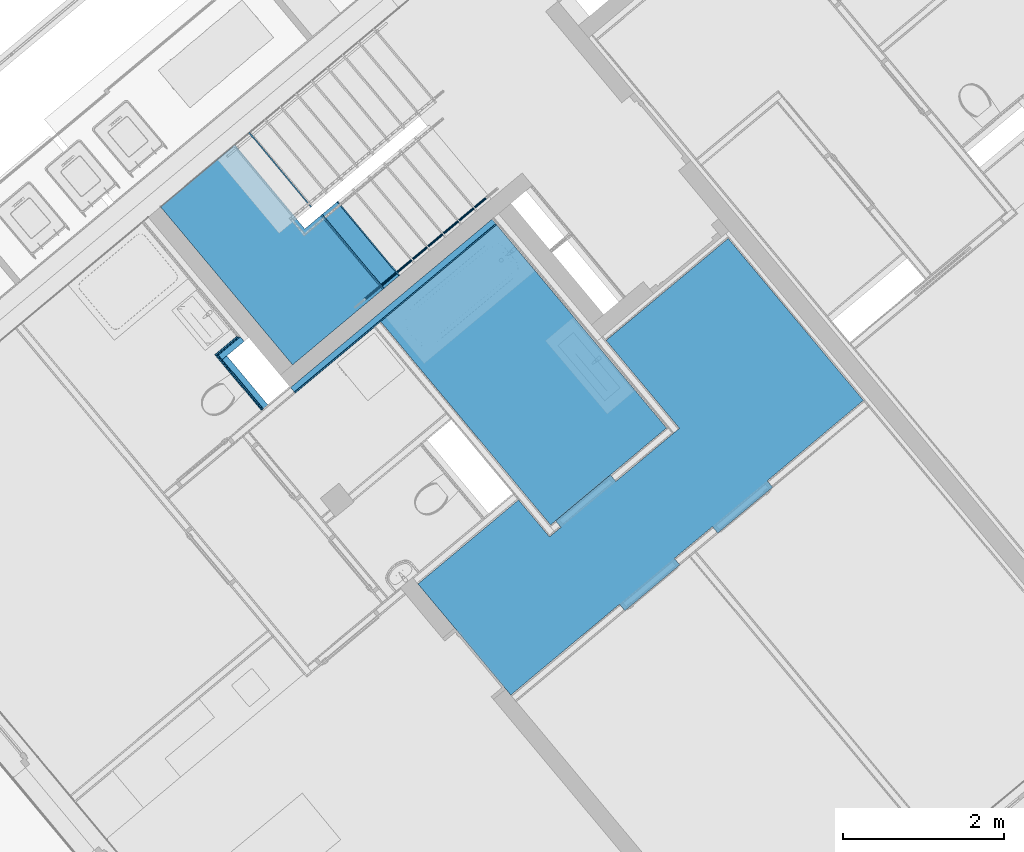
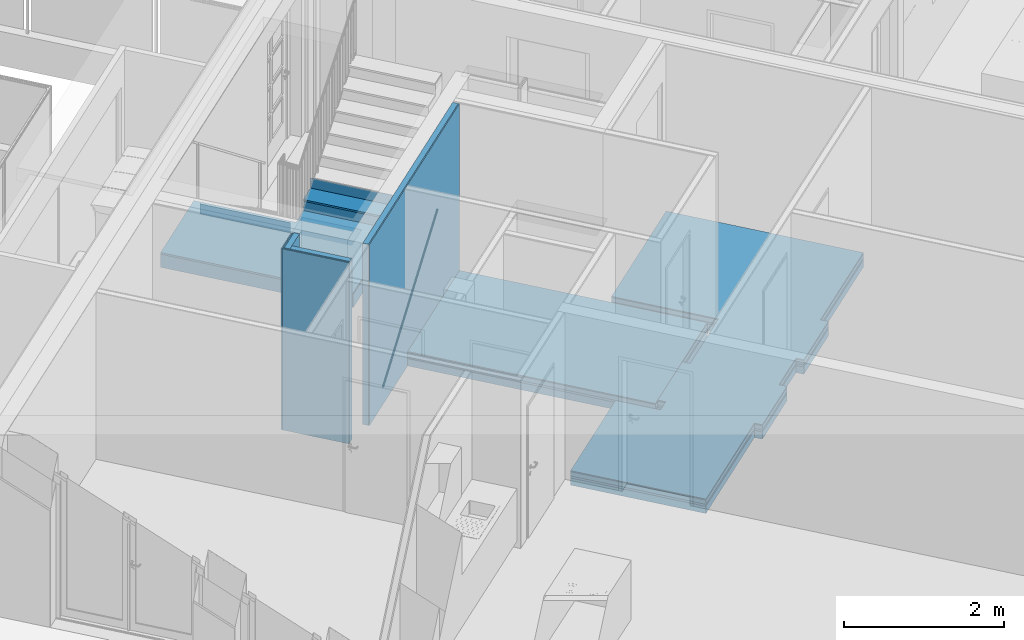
# One storey, part 33 of 75: 23 building element parts, 7 elements without a shape of their own.
"""IFC4 building model written with IfcOpenShell, lengths in metres."""

from ifc_helpers import new_model, entity, si_unit, converted_unit, derived_unit, direction, frame, origin_with_axes, place, context, subcontext, project, spatial, polygons, material, type_object, element, aggregate, save


model = new_model("IFC4")

# Units and contexts
model_context = context("Model", 3, precision=1e-05, world=origin_with_axes(), true_north=direction((0.0, 1.0)))
body_context = subcontext(model_context, "Body", "Model", "MODEL_VIEW")
ifc_project = project(units=[si_unit("LENGTHUNIT", "METRE"), si_unit("AREAUNIT", "SQUARE_METRE"), si_unit("VOLUMEUNIT", "CUBIC_METRE"), converted_unit("PLANEANGLEUNIT", "DEGREE", entity("IfcPlaneAngleMeasure", 0.0174532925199), si_unit("PLANEANGLEUNIT", "RADIAN"), dimensions=[0, 0, 0, 0, 0, 0, 0]), converted_unit("TIMEUNIT", "Year", entity("IfcTimeMeasure", 31556926.0), si_unit("TIMEUNIT", "SECOND"), dimensions=[0, 0, 1, 0, 0, 0, 0]), si_unit("MASSUNIT", "GRAM", prefix="KILO"), si_unit("THERMODYNAMICTEMPERATUREUNIT", "DEGREE_CELSIUS"), si_unit("LUMINOUSINTENSITYUNIT", "LUMEN"), si_unit("ENERGYUNIT", "JOULE", prefix="MEGA"), derived_unit("THERMALCONDUCTANCEUNIT", [(si_unit("POWERUNIT", "WATT"), 1), (si_unit("LENGTHUNIT", "METRE"), -1), (si_unit("THERMODYNAMICTEMPERATUREUNIT", "KELVIN"), -1)]), derived_unit("SPECIFICHEATCAPACITYUNIT", [(si_unit("ENERGYUNIT", "JOULE"), 1), (si_unit("MASSUNIT", "GRAM", prefix="KILO"), -1), (si_unit("THERMODYNAMICTEMPERATUREUNIT", "KELVIN"), -1)]), derived_unit("MASSDENSITYUNIT", [(si_unit("MASSUNIT", "GRAM", prefix="KILO"), 1), (si_unit("VOLUMEUNIT", "CUBIC_METRE"), -1)])], contexts=[model_context])

# Site, building, storey
site_placement = place(None, frame((-0.00153261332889, -0.00661245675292, 0.0), z_axis=(0.0, 0.0, 1.0), x_axis=(1.0, 0.0, 0.0)))
site = spatial("IfcSite", under=ifc_project, at=site_placement, Name="Gelände", CompositionType="ELEMENT")
building_placement = place(site_placement, origin_with_axes())
building = spatial("IfcBuilding", under=site, at=building_placement, Name="Gebäude", CompositionType="ELEMENT")
storey_placement = place(building_placement, frame((0.0, 0.0, -0.22), z_axis=(0.0, 0.0, 1.0), x_axis=(1.0, 0.0, 0.0)))
storey = spatial("IfcBuildingStorey", under=building, at=storey_placement, Name="EG", CompositionType="ELEMENT", Elevation=-0.22)

# Wall, building element parts
wall_type_1 = type_object("IfcWallType", Name="LB 10,5 cm doppelte Vorsatzschale Bad 105", PredefinedType="NOTDEFINED")
wall_1_placement = place(storey_placement, frame((-3.007781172, 20.6786353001, 0.0), z_axis=(0.0, 0.0, 1.0), x_axis=(0.641209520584, -0.767365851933, 0.0)))
wall_1 = element("IfcWall", 1, at=wall_1_placement, inside=storey, type_object=wall_type_1, Name="Wand-004", PredefinedType="NOTDEFINED")
ifc_material_1 = material(Name="Mineralwolle weich")
building_element_part_1_placement = place(wall_1_placement, origin_with_axes())
building_element_part_1 = element("IfcBuildingElementPart", 2, at=building_element_part_1_placement, material=ifc_material_1, Name="Mineralwolle weich", PredefinedType="NOTDEFINED", context=body_context, shape_type="Tessellation", body=[
    polygons([(0.0, 0.0, 2.76), (0.795549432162, 0.0, 2.76), (0.795549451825, 0.0, 0.0), (0.0, 0.0, 0.0), (0.795584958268, -0.075, 2.76), (0.0, -0.075, 2.76), (0.795584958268, -0.075, 0.0), (0.0, -0.075, 0.0)], [[[1, 2, 3, 4]], [[5, 2, 1, 6]], [[2, 5, 7, 3]], [[3, 7, 8, 4]], [[6, 1, 4, 8]], [[5, 6, 8, 7]]], closed=True),
])
ifc_material_2 = material(Name="Gipskarton")
building_element_part_2_placement = place(wall_1_placement, origin_with_axes())
building_element_part_2 = element("IfcBuildingElementPart", 3, at=building_element_part_2_placement, material=ifc_material_2, Name="Gipskarton", PredefinedType="NOTDEFINED", context=body_context, shape_type="Tessellation", body=[
    polygons([(-0.0750000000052, -0.075, 2.76), (0.795584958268, -0.075, 2.76), (0.795584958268, -0.075, 0.0), (-0.0750000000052, -0.075, 0.0), (0.795592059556, -0.09, 2.76), (-0.0750000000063, -0.09, 2.76), (0.795592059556, -0.09, 0.0), (-0.0750000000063, -0.09, 0.0)], [[[1, 2, 3, 4]], [[5, 2, 1, 6]], [[2, 5, 7, 3]], [[3, 7, 8, 4]], [[6, 1, 4, 8]], [[5, 6, 8, 7]]], closed=True),
])
building_element_part_3_placement = place(wall_1_placement, origin_with_axes())
building_element_part_3 = element("IfcBuildingElementPart", 4, at=building_element_part_3_placement, material=ifc_material_2, Name="Gipskarton", PredefinedType="NOTDEFINED", context=body_context, shape_type="Tessellation", body=[
    polygons([(-0.0900000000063, -0.09, 2.76), (0.795592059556, -0.09, 2.76), (0.795592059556, -0.09, 0.0), (-0.0900000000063, -0.09, 0.0), (0.795599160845, -0.105, 2.76), (-0.0900000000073, -0.105, 2.76), (0.795599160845, -0.105, 0.0), (-0.0900000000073, -0.105, 0.0)], [[[1, 2, 3, 4]], [[5, 2, 1, 6]], [[2, 5, 7, 3]], [[3, 7, 8, 4]], [[6, 1, 4, 8]], [[5, 6, 8, 7]]], closed=True),
])
aggregate(wall_1, [building_element_part_1, building_element_part_2, building_element_part_3])

wall_2_placement = place(storey_placement, frame((-2.73492476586, 20.9066336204, 0.0), z_axis=(0.0, 0.0, 1.0), x_axis=(-0.767365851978, -0.64120952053, 0.0)))
wall_2 = element("IfcWall", 5, at=wall_2_placement, inside=storey, type_object=wall_type_1, Name="Wand-004", PredefinedType="NOTDEFINED")
building_element_part_4_placement = place(wall_2_placement, origin_with_axes())
building_element_part_4 = element("IfcBuildingElementPart", 6, at=building_element_part_4_placement, material=ifc_material_1, Name="Mineralwolle weich", PredefinedType="NOTDEFINED", context=body_context, shape_type="Tessellation", body=[
    polygons([(0.0750000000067, -0.075, 2.76), (0.075, 0.0, 2.76), (0.075, 0.0, 0.0), (0.0750000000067, -0.075, 0.0), (0.355575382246, 0.0, 2.76), (0.430575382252, -0.075, 2.76), (0.430575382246, 0.0, 2.76), (0.430575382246, 0.0, 0.0), (0.430575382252, -0.075, 0.0)], [[[1, 2, 3, 4]], [[5, 2, 1, 6, 7]], [[5, 7, 8, 3, 2]], [[8, 9, 4, 3]], [[6, 1, 4, 9]], [[7, 6, 9, 8]]], closed=True),
])
building_element_part_5_placement = place(wall_2_placement, origin_with_axes())
building_element_part_5 = element("IfcBuildingElementPart", 7, at=building_element_part_5_placement, material=ifc_material_2, Name="Gipskarton", PredefinedType="NOTDEFINED", context=body_context, shape_type="Tessellation", body=[
    polygons([(0.090000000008, -0.09, 2.76), (0.0900000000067, -0.075, 2.76), (0.0900000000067, -0.075, 0.0), (0.090000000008, -0.09, 0.0), (0.445575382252, -0.075, 2.76), (0.445575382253, -0.09, 2.76), (0.445575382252, -0.075, 0.0), (0.445575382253, -0.09, 0.0)], [[[1, 2, 3, 4]], [[5, 2, 1, 6]], [[2, 5, 7, 3]], [[7, 8, 4, 3]], [[6, 1, 4, 8]], [[5, 6, 8, 7]]], closed=True),
])
building_element_part_6_placement = place(wall_2_placement, origin_with_axes())
building_element_part_6 = element("IfcBuildingElementPart", 8, at=building_element_part_6_placement, material=ifc_material_2, Name="Gipskarton", PredefinedType="NOTDEFINED", context=body_context, shape_type="Tessellation", body=[
    polygons([(0.105000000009, -0.105, 2.76), (0.105000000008, -0.09, 2.76), (0.105000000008, -0.09, 0.0), (0.105000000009, -0.105, 0.0), (0.460575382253, -0.09, 2.76), (0.460575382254, -0.105, 2.76), (0.460575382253, -0.09, 0.0), (0.460575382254, -0.105, 0.0)], [[[1, 2, 3, 4]], [[5, 2, 1, 6]], [[2, 5, 7, 3]], [[7, 8, 4, 3]], [[6, 1, 4, 8]], [[5, 6, 8, 7]]], closed=True),
])
aggregate(wall_2, [building_element_part_4, building_element_part_5, building_element_part_6])

wall_type_2 = type_object("IfcWallType", Name="LB 9,0 cm einfache Vorsatzschale  90", PredefinedType="NOTDEFINED")
wall_3_placement = place(storey_placement, frame((0.371124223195, 22.44598682, 0.0), z_axis=(0.0, 0.0, 1.0), x_axis=(-0.767365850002, -0.641209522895, 0.0)))
wall_3 = element("IfcWall", 9, at=wall_3_placement, inside=storey, type_object=wall_type_2, Name="Wand-006", PredefinedType="NOTDEFINED")
building_element_part_7_placement = place(wall_3_placement, origin_with_axes())
building_element_part_7 = element("IfcBuildingElementPart", 10, at=building_element_part_7_placement, material=ifc_material_2, Name="Gipskarton", PredefinedType="NOTDEFINED", context=body_context, shape_type="Tessellation", body=[
    polygons([(0.105000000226, 0.075, 2.76), (0.105000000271, 0.09, 2.76), (0.105000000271, 0.09, 0.0), (0.105000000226, 0.075, 0.0), (3.37051675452, 0.09, 2.76), (3.37051675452, 0.075, 2.76), (3.37051675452, 0.09, 0.0), (3.37051675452, 0.075, 0.0)], [[[1, 2, 3, 4]], [[5, 2, 1, 6]], [[2, 5, 7, 3]], [[8, 4, 3, 7]], [[6, 1, 4, 8]], [[5, 6, 8, 7]]], closed=True),
])
building_element_part_8_placement = place(wall_3_placement, origin_with_axes())
building_element_part_8 = element("IfcBuildingElementPart", 11, at=building_element_part_8_placement, material=ifc_material_1, Name="Mineralwolle weich", PredefinedType="NOTDEFINED", context=body_context, shape_type="Tessellation", body=[
    polygons([(0.105, 0.0, 2.76), (0.105000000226, 0.075, 2.76), (0.105000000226, 0.075, 0.0), (0.105, -2.25703900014e-10, 0.0), (3.37051675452, 0.075, 2.76), (3.37051675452, 0.0, 2.76), (3.37051675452, 0.075, 0.0), (3.37051675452, 0.0, 0.0)], [[[1, 2, 3, 4]], [[5, 2, 1, 6]], [[2, 5, 7, 3]], [[8, 4, 3, 7]], [[6, 1, 4, 8]], [[5, 6, 8, 7]]], closed=True),
])
aggregate(wall_3, [building_element_part_7, building_element_part_8])

# Space
space_1_placement = place(storey_placement, frame((-1.16508896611, 24.7530172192, 0.22), z_axis=(0.0, 0.0, 1.0), x_axis=(0.641170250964, -0.76739866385, 0.0)))
space_1 = spatial("IfcSpace", under=storey, at=space_1_placement, CompositionType="ELEMENT", PredefinedType="NOTDEFINED")

# Railing, building element part
railing_type = type_object("IfcRailingType", Name="Geländerart", PredefinedType="NOTDEFINED")
railing_placement = place(space_1_placement, frame((2.55537213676, -0.0246817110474, -1.53333333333), z_axis=(0.0, 0.0, 1.0), x_axis=(0.641170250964, 0.76739866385, 0.0)))
railing = element("IfcRailing", 12, at=railing_placement, inside=space_1, type_object=railing_type, Name="Geländer - 001", PredefinedType="NOTDEFINED")
ifc_material_3 = material(Name="BEKLEIDUNG")
building_element_part_9_placement = place(railing_placement, origin_with_axes())
building_element_part_9 = element("IfcBuildingElementPart", 13, at=building_element_part_9_placement, material=ifc_material_3, Name="BEKLEIDUNG", PredefinedType="NOTDEFINED", context=body_context, shape_type="Tessellation", body=[
    polygons([(-0.212275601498, -0.131766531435, 2.30111559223), (-0.213581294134, -0.13256059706, 2.30323718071), (-1.7362771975, -1.40492254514, 0.889903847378), (-1.73497150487, -1.40412847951, 0.8877822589), (-0.211262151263, -0.130622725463, 2.29899400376), (-0.210571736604, -0.129163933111, 2.29693687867), (-0.210225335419, -0.127434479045, 2.29500672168), (-0.210233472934, -0.125486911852, 2.29326217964), (-0.210595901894, -0.123380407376, 2.29175625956), (-0.211301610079, -0.12117897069, 2.29053471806), (-0.212329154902, -0.118949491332, 2.28963467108), (-0.213647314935, -0.116759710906, 2.28908346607), (-0.215216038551, -0.114676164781, 2.28889785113), (-0.216987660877, -0.112762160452, 2.28908346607), (-0.218908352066, -0.111075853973, 2.28963467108), (-0.220919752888, -0.109668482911, 2.29053471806), (-0.222960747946, -0.108582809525, 2.29175625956), (-0.224969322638, -0.107851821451, 2.29326217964), (-0.226884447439, -0.107497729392, 2.29500672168), (-0.228647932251, -0.107531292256, 2.29693687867), (-0.230206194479, -0.107951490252, 2.29899400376), (-0.231511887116, -0.108745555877, 2.30111559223), (-0.23252533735, -0.109889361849, 2.30323718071), (-0.23321575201, -0.111348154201, 2.3052943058), (-0.233562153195, -0.113077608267, 2.30722446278), (-0.23355401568, -0.11502517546, 2.30896900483), (-0.23319158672, -0.117131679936, 2.31047492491), (-0.232485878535, -0.119333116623, 2.3116964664), (-0.231458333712, -0.12156259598, 2.31259651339), (-0.230140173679, -0.123752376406, 2.31314771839), (-0.228571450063, -0.125835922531, 2.31333333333), (-0.226799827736, -0.12774992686, 2.31314771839), (-0.224879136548, -0.12943623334, 2.31259651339), (-0.222867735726, -0.130843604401, 2.3116964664), (-0.220826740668, -0.131929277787, 2.31047492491), (-0.218818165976, -0.132660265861, 2.30896900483), (-0.216903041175, -0.13301435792, 2.30722446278), (-0.215139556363, -0.132980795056, 2.3052943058), (-1.73783545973, -1.40534274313, 0.891960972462), (-1.73959894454, -1.405376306, 0.89389112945), (-1.74151406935, -1.40502221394, 0.895635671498), (-1.74352264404, -1.40429122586, 0.897141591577), (-1.7455636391, -1.40320555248, 0.89836313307), (-1.74757503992, -1.40179818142, 0.899263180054), (-1.74949573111, -1.40011187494, 0.89981438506), (-1.75126735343, -1.39819787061, 0.9), (-1.75283607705, -1.39611432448, 0.89981438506), (-1.75415423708, -1.39392454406, 0.899263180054), (-1.7551817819, -1.3916950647, 0.89836313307), (-1.75588749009, -1.38949362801, 0.897141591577), (-1.75624991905, -1.38738712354, 0.895635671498), (-1.75625805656, -1.38543955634, 0.89389112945), (-1.75591165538, -1.38371010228, 0.891960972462), (-1.75522124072, -1.38225130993, 0.889903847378), (-1.75420779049, -1.38110750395, 0.8877822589), (-1.75290209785, -1.38031343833, 0.885660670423), (-1.75134383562, -1.37989324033, 0.883603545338), (-1.74958035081, -1.37985967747, 0.881673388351), (-1.74766522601, -1.38021376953, 0.879928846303), (-1.74565665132, -1.3809447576, 0.878422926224), (-1.74361565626, -1.38203043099, 0.877201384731), (-1.74160425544, -1.38343780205, 0.876301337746), (-1.73968356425, -1.38512410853, 0.875750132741), (-1.73791194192, -1.38703811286, 0.875564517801), (-1.7363432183, -1.38912165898, 0.875750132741), (-1.73502505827, -1.39131143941, 0.876301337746), (-1.73399751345, -1.39354091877, 0.877201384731), (-1.73329180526, -1.39574235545, 0.878422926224), (-1.7329293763, -1.39784885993, 0.879928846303), (-1.73292123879, -1.39979642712, 0.881673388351), (-1.73326763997, -1.40152588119, 0.883603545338), (-1.73395805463, -1.40298467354, 0.885660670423)], [[[1, 2, 3, 4]], [[1, 5, 6, 7, 8, 9, 10, 11, 12, 13, 14, 15, 16, 17, 18, 19, 20, 21, 22, 23, 24, 25, 26, 27, 28, 29, 30, 31, 32, 33, 34, 35, 36, 37, 38, 2]], [[2, 38, 39, 3]], [[4, 3, 39, 40, 41, 42, 43, 44, 45, 46, 47, 48, 49, 50, 51, 52, 53, 54, 55, 56, 57, 58, 59, 60, 61, 62, 63, 64, 65, 66, 67, 68, 69, 70, 71, 72]], [[5, 1, 4, 72]], [[6, 5, 72, 71]], [[7, 6, 71, 70]], [[8, 7, 70, 69]], [[9, 8, 69, 68]], [[10, 9, 68, 67]], [[11, 10, 67, 66]], [[12, 11, 66, 65]], [[13, 12, 65, 64]], [[14, 13, 64, 63]], [[15, 14, 63, 62]], [[16, 15, 62, 61]], [[17, 16, 61, 60]], [[18, 17, 60, 59]], [[19, 18, 59, 58]], [[20, 19, 58, 57]], [[21, 20, 57, 56]], [[22, 21, 56, 55]], [[23, 22, 55, 54]], [[24, 23, 54, 53]], [[25, 24, 53, 52]], [[26, 25, 52, 51]], [[27, 26, 51, 50]], [[28, 27, 50, 49]], [[29, 28, 49, 48]], [[30, 29, 48, 47]], [[31, 30, 47, 46]], [[32, 31, 46, 45]], [[33, 32, 45, 44]], [[34, 33, 44, 43]], [[35, 34, 43, 42]], [[36, 35, 42, 41]], [[37, 36, 41, 40]], [[38, 37, 40, 39]]], closed=True),
])
aggregate(railing, [building_element_part_9])

# Covering, building element parts
covering_type = type_object("IfcCoveringType", Name="DE 01 Decke Wohnung/Wohnung Fließen 220", PredefinedType="NOTDEFINED")
covering_1_placement = place(storey_placement, frame((0.620119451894, 18.8878317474, 0.22), z_axis=(0.0, 0.0, 1.0), x_axis=(1.0, 0.0, 0.0)))
covering_1 = element("IfcCovering", 14, at=covering_1_placement, inside=storey, type_object=covering_type, Name="Decke-002", PredefinedType="NOTDEFINED")
ifc_material_4 = material(Name="Fliesen")
building_element_part_10_placement = place(covering_1_placement, origin_with_axes())
building_element_part_10 = element("IfcBuildingElementPart", 15, at=building_element_part_10_placement, material=ifc_material_4, Name="Fliesen", PredefinedType="NOTDEFINED", context=body_context, shape_type="Tessellation", body=[
    polygons([(1.08734929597, 1.98227361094, 0.0), (1.99999157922, 0.889899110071, 0.0), (1.20943260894, 0.229309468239, 0.0), (1.14210555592, 0.309882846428, 0.0), (0.459149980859, -0.260793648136, 0.0), (0.526476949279, -0.341367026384, 0.0), (0.384427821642, -0.460063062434, 0.0), (0.0, 0.0, 0.0), (-1.25133214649, -1.04561091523, 0.0), (-0.0965096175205, -2.42764183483, 0.0), (1.25499141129, -1.29832999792, 0.0), (1.32231837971, -1.37890346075, 0.0), (2.00527395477, -0.808226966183, 0.0), (1.93794698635, -0.727653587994, 0.0), (2.40987198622, -0.333313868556, 0.0), (2.47719895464, -0.413887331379, 0.0), (3.16015461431, 0.156789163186, 0.0), (3.09282756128, 0.237362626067, 0.0), (4.28845343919, 1.23642541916, 0.0), (2.6068880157, 3.25077620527, 0.0), (1.99999157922, 0.889899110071, -0.015), (1.08734929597, 1.98227361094, -0.015), (1.20943260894, 0.229309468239, -0.015), (1.14210555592, 0.309882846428, -0.015), (0.459149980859, -0.260793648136, -0.015), (0.526476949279, -0.341367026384, -0.015), (0.384427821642, -0.460063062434, -0.015), (0.0, 0.0, -0.015), (-1.25133214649, -1.04561091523, -0.015), (-0.0965096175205, -2.42764183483, -0.015), (1.25499141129, -1.29832999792, -0.015), (1.32231837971, -1.37890346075, -0.015), (2.00527395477, -0.808226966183, -0.015), (1.93794698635, -0.727653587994, -0.015), (2.40987198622, -0.333313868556, -0.015), (2.47719895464, -0.413887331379, -0.015), (3.16015461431, 0.156789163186, -0.015), (3.09282756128, 0.237362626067, -0.015), (4.28845343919, 1.23642541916, -0.015), (2.6068880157, 3.25077620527, -0.015)], [[[1, 2, 3, 4, 5, 6, 7, 8, 9, 10, 11, 12, 13, 14, 15, 16, 17, 18, 19, 20]], [[21, 2, 1, 22]], [[2, 21, 23, 3]], [[23, 24, 4, 3]], [[24, 25, 5, 4]], [[25, 26, 6, 5]], [[26, 27, 7, 6]], [[27, 28, 8, 7]], [[28, 29, 9, 8]], [[29, 30, 10, 9]], [[30, 31, 11, 10]], [[31, 32, 12, 11]], [[32, 33, 13, 12]], [[33, 34, 14, 13]], [[34, 35, 15, 14]], [[35, 36, 16, 15]], [[36, 37, 17, 16]], [[37, 38, 18, 17]], [[38, 39, 19, 18]], [[39, 40, 20, 19]], [[22, 1, 20, 40]], [[21, 22, 40, 39, 38, 37, 36, 35, 34, 33, 32, 31, 30, 29, 28, 27, 26, 25, 24, 23]]], closed=True),
])
ifc_material_5 = material(Name="Estrich")
building_element_part_11_placement = place(covering_1_placement, origin_with_axes())
building_element_part_11 = element("IfcBuildingElementPart", 16, at=building_element_part_11_placement, material=ifc_material_5, Name="Estrich", PredefinedType="NOTDEFINED", context=body_context, shape_type="Tessellation", body=[
    polygons([(1.08734929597, 1.98227361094, -0.015), (1.99999157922, 0.889899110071, -0.015), (1.20943260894, 0.229309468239, -0.015), (1.14210555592, 0.309882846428, -0.015), (0.459149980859, -0.260793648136, -0.015), (0.526476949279, -0.341367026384, -0.015), (0.384427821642, -0.460063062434, -0.015), (0.0, 0.0, -0.015), (-1.25133214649, -1.04561091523, -0.015), (-0.0965096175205, -2.42764183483, -0.015), (1.25499141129, -1.29832999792, -0.015), (1.32231837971, -1.37890346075, -0.015), (2.00527395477, -0.808226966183, -0.015), (1.93794698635, -0.727653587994, -0.015), (2.40987198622, -0.333313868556, -0.015), (2.47719895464, -0.413887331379, -0.015), (3.16015461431, 0.156789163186, -0.015), (3.09282756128, 0.237362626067, -0.015), (4.28845343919, 1.23642541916, -0.015), (2.6068880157, 3.25077620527, -0.015), (1.99999157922, 0.889899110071, -0.08), (1.08734929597, 1.98227361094, -0.08), (1.20943260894, 0.229309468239, -0.08), (1.14210555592, 0.309882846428, -0.08), (0.459149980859, -0.260793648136, -0.08), (0.526476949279, -0.341367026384, -0.08), (0.384427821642, -0.460063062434, -0.08), (0.0, 0.0, -0.08), (-1.25133214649, -1.04561091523, -0.08), (-0.0965096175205, -2.42764183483, -0.08), (1.25499141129, -1.29832999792, -0.08), (1.32231837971, -1.37890346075, -0.08), (2.00527395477, -0.808226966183, -0.08), (1.93794698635, -0.727653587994, -0.08), (2.40987198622, -0.333313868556, -0.08), (2.47719895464, -0.413887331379, -0.08), (3.16015461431, 0.156789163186, -0.08), (3.09282756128, 0.237362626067, -0.08), (4.28845343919, 1.23642541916, -0.08), (2.6068880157, 3.25077620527, -0.08)], [[[1, 2, 3, 4, 5, 6, 7, 8, 9, 10, 11, 12, 13, 14, 15, 16, 17, 18, 19, 20]], [[21, 2, 1, 22]], [[2, 21, 23, 3]], [[23, 24, 4, 3]], [[24, 25, 5, 4]], [[25, 26, 6, 5]], [[26, 27, 7, 6]], [[27, 28, 8, 7]], [[28, 29, 9, 8]], [[29, 30, 10, 9]], [[30, 31, 11, 10]], [[31, 32, 12, 11]], [[32, 33, 13, 12]], [[33, 34, 14, 13]], [[34, 35, 15, 14]], [[35, 36, 16, 15]], [[36, 37, 17, 16]], [[37, 38, 18, 17]], [[38, 39, 19, 18]], [[39, 40, 20, 19]], [[22, 1, 20, 40]], [[21, 22, 40, 39, 38, 37, 36, 35, 34, 33, 32, 31, 30, 29, 28, 27, 26, 25, 24, 23]]], closed=True),
])
ifc_material_6 = material(Name="Trittschalldämmung")
building_element_part_12_placement = place(covering_1_placement, origin_with_axes())
building_element_part_12 = element("IfcBuildingElementPart", 17, at=building_element_part_12_placement, material=ifc_material_6, Name="Trittschalldämmung", PredefinedType="NOTDEFINED", context=body_context, shape_type="Tessellation", body=[
    polygons([(1.08734929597, 1.98227361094, -0.08), (1.99999157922, 0.889899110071, -0.08), (1.20943260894, 0.229309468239, -0.08), (1.14210555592, 0.309882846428, -0.08), (0.459149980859, -0.260793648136, -0.08), (0.526476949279, -0.341367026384, -0.08), (0.384427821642, -0.460063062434, -0.08), (0.0, 0.0, -0.08), (-1.25133214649, -1.04561091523, -0.08), (-0.0965096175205, -2.42764183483, -0.08), (1.25499141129, -1.29832999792, -0.08), (1.32231837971, -1.37890346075, -0.08), (2.00527395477, -0.808226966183, -0.08), (1.93794698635, -0.727653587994, -0.08), (2.40987198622, -0.333313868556, -0.08), (2.47719895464, -0.413887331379, -0.08), (3.16015461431, 0.156789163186, -0.08), (3.09282756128, 0.237362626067, -0.08), (4.28845343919, 1.23642541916, -0.08), (2.6068880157, 3.25077620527, -0.08), (1.99999157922, 0.889899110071, -0.11), (1.08734929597, 1.98227361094, -0.11), (1.20943260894, 0.229309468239, -0.11), (1.14210555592, 0.309882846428, -0.11), (0.459149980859, -0.260793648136, -0.11), (0.526476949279, -0.341367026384, -0.11), (0.384427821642, -0.460063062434, -0.11), (0.0, 0.0, -0.11), (-1.25133214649, -1.04561091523, -0.11), (-0.0965096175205, -2.42764183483, -0.11), (1.25499141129, -1.29832999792, -0.11), (1.32231837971, -1.37890346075, -0.11), (2.00527395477, -0.808226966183, -0.11), (1.93794698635, -0.727653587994, -0.11), (2.40987198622, -0.333313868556, -0.11), (2.47719895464, -0.413887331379, -0.11), (3.16015461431, 0.156789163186, -0.11), (3.09282756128, 0.237362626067, -0.11), (4.28845343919, 1.23642541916, -0.11), (2.6068880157, 3.25077620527, -0.11)], [[[1, 2, 3, 4, 5, 6, 7, 8, 9, 10, 11, 12, 13, 14, 15, 16, 17, 18, 19, 20]], [[21, 2, 1, 22]], [[2, 21, 23, 3]], [[23, 24, 4, 3]], [[24, 25, 5, 4]], [[25, 26, 6, 5]], [[26, 27, 7, 6]], [[27, 28, 8, 7]], [[28, 29, 9, 8]], [[29, 30, 10, 9]], [[30, 31, 11, 10]], [[31, 32, 12, 11]], [[32, 33, 13, 12]], [[33, 34, 14, 13]], [[34, 35, 15, 14]], [[35, 36, 16, 15]], [[36, 37, 17, 16]], [[37, 38, 18, 17]], [[38, 39, 19, 18]], [[39, 40, 20, 19]], [[22, 1, 20, 40]], [[21, 22, 40, 39, 38, 37, 36, 35, 34, 33, 32, 31, 30, 29, 28, 27, 26, 25, 24, 23]]], closed=True),
])
ifc_material_7 = material(Name="Schüttung")
building_element_part_13_placement = place(covering_1_placement, origin_with_axes())
building_element_part_13 = element("IfcBuildingElementPart", 18, at=building_element_part_13_placement, material=ifc_material_7, Name="Schüttung", PredefinedType="NOTDEFINED", context=body_context, shape_type="Tessellation", body=[
    polygons([(1.08734929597, 1.98227361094, -0.11), (1.99999157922, 0.889899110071, -0.11), (1.20943260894, 0.229309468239, -0.11), (1.14210555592, 0.309882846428, -0.11), (0.459149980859, -0.260793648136, -0.11), (0.526476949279, -0.341367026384, -0.11), (0.384427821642, -0.460063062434, -0.11), (0.0, 0.0, -0.11), (-1.25133214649, -1.04561091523, -0.11), (-0.0965096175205, -2.42764183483, -0.11), (1.25499141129, -1.29832999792, -0.11), (1.32231837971, -1.37890346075, -0.11), (2.00527395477, -0.808226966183, -0.11), (1.93794698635, -0.727653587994, -0.11), (2.40987198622, -0.333313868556, -0.11), (2.47719895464, -0.413887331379, -0.11), (3.16015461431, 0.156789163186, -0.11), (3.09282756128, 0.237362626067, -0.11), (4.28845343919, 1.23642541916, -0.11), (2.6068880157, 3.25077620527, -0.11), (1.99999157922, 0.889899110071, -0.22), (1.08734929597, 1.98227361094, -0.22), (1.20943260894, 0.229309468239, -0.22), (1.14210555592, 0.309882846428, -0.22), (0.459149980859, -0.260793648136, -0.22), (0.526476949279, -0.341367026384, -0.22), (0.384427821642, -0.460063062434, -0.22), (0.0, 0.0, -0.22), (-1.25133214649, -1.04561091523, -0.22), (-0.0965096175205, -2.42764183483, -0.22), (1.25499141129, -1.29832999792, -0.22), (1.32231837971, -1.37890346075, -0.22), (2.00527395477, -0.808226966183, -0.22), (1.93794698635, -0.727653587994, -0.22), (2.40987198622, -0.333313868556, -0.22), (2.47719895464, -0.413887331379, -0.22), (3.16015461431, 0.156789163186, -0.22), (3.09282756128, 0.237362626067, -0.22), (4.28845343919, 1.23642541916, -0.22), (2.6068880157, 3.25077620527, -0.22)], [[[1, 2, 3, 4, 5, 6, 7, 8, 9, 10, 11, 12, 13, 14, 15, 16, 17, 18, 19, 20]], [[21, 2, 1, 22]], [[2, 21, 23, 3]], [[3, 23, 24, 4]], [[4, 24, 25, 5]], [[5, 25, 26, 6]], [[6, 26, 27, 7]], [[7, 27, 28, 8]], [[8, 28, 29, 9]], [[9, 29, 30, 10]], [[10, 30, 31, 11]], [[11, 31, 32, 12]], [[12, 32, 33, 13]], [[13, 33, 34, 14]], [[14, 34, 35, 15]], [[15, 35, 36, 16]], [[16, 36, 37, 17]], [[17, 37, 38, 18]], [[18, 38, 39, 19]], [[19, 39, 40, 20]], [[22, 1, 20, 40]], [[21, 22, 40, 39, 38, 37, 36, 35, 34, 33, 32, 31, 30, 29, 28, 27, 26, 25, 24, 23]]], closed=True),
])
aggregate(covering_1, [building_element_part_10, building_element_part_11, building_element_part_12, building_element_part_13])

covering_2_placement = place(storey_placement, frame((2.46070637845, 19.7813643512, 0.22), z_axis=(0.0, 0.0, 1.0), x_axis=(1.0, 0.0, 0.0)))
covering_2 = element("IfcCovering", 19, at=covering_2_placement, inside=storey, type_object=covering_type, Name="Decke-003", PredefinedType="NOTDEFINED")
building_element_part_14_placement = place(covering_2_placement, origin_with_axes())
building_element_part_14 = element("IfcBuildingElementPart", 20, at=building_element_part_14_placement, material=ifc_material_4, Name="Fliesen", PredefinedType="NOTDEFINED", context=body_context, shape_type="Tessellation", body=[
    polygons([(-2.11244671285, 2.52823254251, -0.015), (-2.11244671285, 2.52823254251, 0.0), (0.0, 0.0, 0.0), (0.0, 0.0, -0.015), (-3.55544192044, 1.32246835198, -0.015), (-3.55544192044, 1.32246835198, 0.0), (-1.44291267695, -1.20569522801, 0.0), (-1.44291267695, -1.20569522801, -0.015)], [[[1, 2, 3, 4]], [[5, 6, 2, 1]], [[3, 2, 6, 7]], [[4, 3, 7, 8]], [[4, 8, 5, 1]], [[8, 7, 6, 5]]], closed=True),
])
building_element_part_15_placement = place(covering_2_placement, origin_with_axes())
building_element_part_15 = element("IfcBuildingElementPart", 21, at=building_element_part_15_placement, material=ifc_material_5, Name="Estrich", PredefinedType="NOTDEFINED", context=body_context, shape_type="Tessellation", body=[
    polygons([(-2.11244671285, 2.52823254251, -0.08), (-2.11244671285, 2.52823254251, -0.015), (0.0, 0.0, -0.015), (0.0, 0.0, -0.08), (-3.55544192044, 1.32246835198, -0.08), (-3.55544192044, 1.32246835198, -0.015), (-1.44291267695, -1.20569522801, -0.015), (-1.44291267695, -1.20569522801, -0.08)], [[[1, 2, 3, 4]], [[5, 6, 2, 1]], [[3, 2, 6, 7]], [[4, 3, 7, 8]], [[4, 8, 5, 1]], [[8, 7, 6, 5]]], closed=True),
])
building_element_part_16_placement = place(covering_2_placement, origin_with_axes())
building_element_part_16 = element("IfcBuildingElementPart", 22, at=building_element_part_16_placement, material=ifc_material_6, Name="Trittschalldämmung", PredefinedType="NOTDEFINED", context=body_context, shape_type="Tessellation", body=[
    polygons([(-2.11244671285, 2.52823254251, -0.11), (-2.11244671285, 2.52823254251, -0.08), (0.0, 0.0, -0.08), (0.0, 0.0, -0.11), (-3.55544192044, 1.32246835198, -0.11), (-3.55544192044, 1.32246835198, -0.08), (-1.44291267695, -1.20569522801, -0.08), (-1.44291267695, -1.20569522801, -0.11)], [[[1, 2, 3, 4]], [[5, 6, 2, 1]], [[3, 2, 6, 7]], [[4, 3, 7, 8]], [[4, 8, 5, 1]], [[8, 7, 6, 5]]], closed=True),
])
building_element_part_17_placement = place(covering_2_placement, origin_with_axes())
building_element_part_17 = element("IfcBuildingElementPart", 23, at=building_element_part_17_placement, material=ifc_material_7, Name="Schüttung", PredefinedType="NOTDEFINED", context=body_context, shape_type="Tessellation", body=[
    polygons([(0.0, 0.0, -0.22), (-2.11244671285, 2.52823254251, -0.22), (-2.11244671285, 2.52823254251, -0.11), (0.0, 0.0, -0.11), (-1.44291267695, -1.20569522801, -0.22), (-3.55544192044, 1.32246835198, -0.22), (-3.55544192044, 1.32246835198, -0.11), (-1.44291267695, -1.20569522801, -0.11)], [[[1, 2, 3, 4]], [[1, 5, 6, 2]], [[2, 6, 7, 3]], [[4, 3, 7, 8]], [[5, 1, 4, 8]], [[6, 5, 8, 7]]], closed=True),
])
aggregate(covering_2, [building_element_part_14, building_element_part_15, building_element_part_16, building_element_part_17])

# Space
space_2_placement = place(storey_placement, frame((0.257887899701, 22.6119986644, 0.22), z_axis=(0.0, 0.0, 1.0), x_axis=(-0.641204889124, 0.767369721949, 0.0)))
space_2 = spatial("IfcSpace", under=storey, at=space_2_placement, CompositionType="ELEMENT", PredefinedType="NOTDEFINED")

# Stair, building element parts
stair_type = type_object("IfcStairType", Name="Treppentyp", PredefinedType="NOTDEFINED")
stair_placement = place(space_2_placement, frame((2.55982666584, -0.536119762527, -0.17), z_axis=(0.0, 0.0, 1.0), x_axis=(-0.641204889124, -0.767369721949, 0.0)))
stair = element("IfcStair", 24, at=stair_placement, inside=space_2, type_object=stair_type, Name="Treppe - 001", PredefinedType="NOTDEFINED")
ifc_material_8 = material(Name="Stahlbeton Decke")
building_element_part_18_placement = place(stair_placement, origin_with_axes())
building_element_part_18 = element("IfcBuildingElementPart", 25, at=building_element_part_18_placement, material=ifc_material_8, Name="Stahlbeton Decke", PredefinedType="NOTDEFINED", context=body_context, shape_type="Tessellation", body=[
    polygons([(-0.0995859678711, -3.41907180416, 1.54558823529), (-0.0995859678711, -3.41907180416, 1.74558823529), (-1.21798601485, -4.3536048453, 1.74558823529), (-1.21798601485, -4.3536048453, 1.54558823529), (-0.869037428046, -2.49823278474, 1.74558823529), (-0.869037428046, -2.49823278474, 1.54558823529), (-1.06659845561, -2.66331440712, 1.74558823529), (-1.16916165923, -2.5405721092, 1.74558823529), (-1.18404787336, -2.55300972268, 1.74558823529), (-1.95345217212, -1.63213131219, 1.74558823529), (-2.85949147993, -2.38913738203, 1.74558823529), (-2.85949147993, -2.38913738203, 1.54558823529), (-1.93419043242, -1.61603796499, 1.54558823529), (-1.16478618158, -2.53691636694, 1.54558823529), (-1.16916165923, -2.5405721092, 1.54558823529), (-1.06659845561, -2.66331440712, 1.54558823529), (-1.16916165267, -2.54057211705, 1.56852941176), (-1.18404787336, -2.55300972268, 1.56852941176), (-1.95345217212, -1.63213131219, 1.56852941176), (-1.93419043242, -1.61603796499, 1.56852941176), (-1.16478618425, -2.53691636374, 1.56852941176)], [[[1, 2, 3, 4]], [[5, 2, 1, 6]], [[2, 5, 7, 8, 9, 10, 11, 3]], [[3, 11, 12, 4]], [[6, 1, 4, 12, 13, 14, 15, 16]], [[5, 6, 16, 7]], [[8, 7, 16, 15, 17]], [[8, 17, 18, 9]], [[18, 19, 10, 9]], [[13, 12, 11, 10, 19, 20]], [[14, 13, 20, 21]], [[21, 17, 15, 14]], [[20, 19, 18, 17, 21]]], closed=True),
])
building_element_part_19_placement = place(stair_placement, origin_with_axes())
building_element_part_19 = element("IfcBuildingElementPart", 26, at=building_element_part_19_placement, material=ifc_material_3, Name="BEKLEIDUNG", PredefinedType="NOTDEFINED", context=body_context, shape_type="Tessellation", body=[
    polygons([(-1.75255458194, -1.46427912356, 1.56852941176), (-1.76022856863, -1.47069082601, 1.56852941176), (-0.990824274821, -2.39156922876, 1.56852941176), (-0.983150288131, -2.38515752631, 1.56852941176), (-1.75255458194, -1.46427912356, 1.41647058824), (-1.76022856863, -1.47069082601, 1.41647058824), (-0.990824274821, -2.39156922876, 1.41647058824), (-0.983150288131, -2.38515752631, 1.41647058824)], [[[1, 2, 3, 4]], [[1, 5, 6, 2]], [[2, 6, 7, 3]], [[4, 3, 7, 8]], [[5, 1, 4, 8]], [[6, 5, 8, 7]]], closed=True),
])
building_element_part_20_placement = place(stair_placement, origin_with_axes())
building_element_part_20 = element("IfcBuildingElementPart", 27, at=building_element_part_20_placement, material=ifc_material_3, Name="BEKLEIDUNG", PredefinedType="NOTDEFINED", context=body_context, shape_type="Tessellation", body=[
    polygons([(-0.0880754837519, -3.40945364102, 1.92264705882), (-0.0804018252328, -3.40304154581, 1.92264705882), (-0.849853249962, -2.48220252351, 1.92264705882), (-0.857526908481, -2.48861461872, 1.92264705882), (-0.0880754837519, -3.40945364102, 1.77058823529), (-0.0804018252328, -3.40304154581, 1.77058823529), (-0.849853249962, -2.48220252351, 1.77058823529), (-0.857526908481, -2.48861461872, 1.77058823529)], [[[1, 2, 3, 4]], [[1, 5, 6, 2]], [[2, 6, 7, 3]], [[4, 3, 7, 8]], [[5, 1, 4, 8]], [[6, 5, 8, 7]]], closed=True),
])
building_element_part_21_placement = place(stair_placement, origin_with_axes())
building_element_part_21 = element("IfcBuildingElementPart", 28, at=building_element_part_21_placement, material=ifc_material_3, Name="BEKLEIDUNG", PredefinedType="NOTDEFINED", context=body_context, shape_type="Tessellation", body=[
    polygons([(0.105063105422, -3.24806738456, 2.09970588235), (0.112736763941, -3.24165528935, 2.09970588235), (-0.656714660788, -2.32081626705, 2.09970588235), (-0.664388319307, -2.32722836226, 2.09970588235), (0.105063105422, -3.24806738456, 1.94764705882), (0.112736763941, -3.24165528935, 1.94764705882), (-0.656714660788, -2.32081626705, 1.94764705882), (-0.664388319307, -2.32722836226, 1.94764705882)], [[[1, 2, 3, 4]], [[1, 5, 6, 2]], [[2, 6, 7, 3]], [[4, 3, 7, 8]], [[5, 1, 4, 8]], [[6, 5, 8, 7]]], closed=True),
])
building_element_part_22_placement = place(stair_placement, origin_with_axes())
building_element_part_22 = element("IfcBuildingElementPart", 29, at=building_element_part_22_placement, material=ifc_material_3, Name="BEKLEIDUNG", PredefinedType="NOTDEFINED", context=body_context, shape_type="Tessellation", body=[
    polygons([(-2.85949147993, -2.38913737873, 1.74558823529), (-1.2179860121, -4.3536048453, 1.74558823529), (-1.2179860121, -4.3536048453, 1.77058823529), (-2.85949147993, -2.38913737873, 1.77058823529), (-1.93419043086, -1.6160379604, 1.74558823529), (-1.16478613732, -2.53691636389, 1.74558823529), (-1.16916165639, -2.54057210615, 1.74558823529), (-1.06659841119, -2.66331440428, 1.74558823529), (-1.06217597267, -2.65961903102, 1.74558823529), (-0.849853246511, -2.48220251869, 1.74558823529), (-0.080401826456, -3.40304153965, 1.74558823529), (-0.292724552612, -3.58045805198, 1.74558823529), (-0.292724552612, -3.58045805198, 1.77058823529), (-0.080401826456, -3.40304153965, 1.77058823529), (-0.849853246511, -2.48220251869, 1.77058823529), (-1.06217597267, -2.65961903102, 1.77058823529), (-1.06659841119, -2.66331440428, 1.77058823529), (-1.16916165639, -2.54057210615, 1.77058823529), (-1.16478613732, -2.53691636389, 1.77058823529), (-1.93419043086, -1.6160379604, 1.77058823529)], [[[1, 2, 3, 4]], [[1, 5, 6, 7, 8, 9, 10, 11, 12, 2]], [[2, 12, 13, 3]], [[4, 3, 13, 14, 15, 16, 17, 18, 19, 20]], [[5, 1, 4, 20]], [[6, 5, 20, 19]], [[7, 6, 19, 18]], [[8, 7, 18, 17]], [[9, 8, 17, 16]], [[10, 9, 16, 15]], [[11, 10, 15, 14]], [[12, 11, 14, 13]]], closed=True),
])
building_element_part_23_placement = place(stair_placement, origin_with_axes())
building_element_part_23 = element("IfcBuildingElementPart", 30, at=building_element_part_23_placement, material=ifc_material_3, Name="BEKLEIDUNG", PredefinedType="NOTDEFINED", context=body_context, shape_type="Tessellation", body=[
    polygons([(-0.869037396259, -2.49823276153, 1.92264705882), (-0.0995859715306, -3.41907178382, 1.92264705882), (-0.0995859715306, -3.41907178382, 1.94764705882), (-0.869037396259, -2.49823276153, 1.94764705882), (-0.656714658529, -2.32081626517, 1.92264705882), (0.112736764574, -3.24165528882, 1.92264705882), (0.112736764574, -3.24165528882, 1.94764705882), (-0.656714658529, -2.32081626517, 1.94764705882)], [[[1, 2, 3, 4]], [[1, 5, 6, 2]], [[2, 6, 7, 3]], [[4, 3, 7, 8]], [[5, 1, 4, 8]], [[6, 5, 8, 7]]], closed=True),
])
aggregate(stair, [building_element_part_18, building_element_part_19, building_element_part_20, building_element_part_21, building_element_part_22, building_element_part_23])

save(model, "model.ifc")
